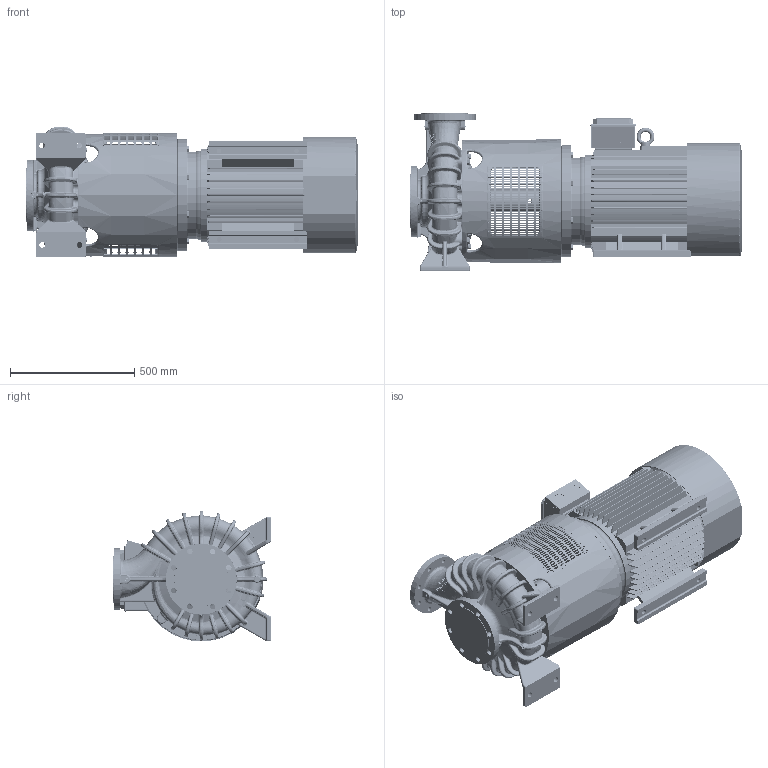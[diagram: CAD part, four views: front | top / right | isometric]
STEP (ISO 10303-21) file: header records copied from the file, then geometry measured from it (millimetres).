
FILE_DESCRIPTION((''),'2;1');
FILE_NAME('NSLH125-330_A02_MOTOR_225_ASM','2019-09-30T',('BRHE'),(''),'PRO/ENGINEER BY PARAMETRIC TECHNOLOGY CORPORATION, 2017170','PRO/ENGINEER BY PARAMETRIC TECHNOLOGY CORPORATION, 2017170','');
FILE_SCHEMA(('CONFIG_CONTROL_DESIGN'));
Products named in the file (38): 523740; 523960; 506710; 110165; 110167; 705274; 700949; 704267; 110172; 704022; 707211; 704247; 513871; 506702; 704032; 706279; 704186; 506961; 705511; 704390; 704371; 704067; 705750; 708178; 704279; 513770; 704047; 704048; 110557_AF0; 656577_ASM; 656576_ASM; 110535; 110177; 704016; 703207; 673251_ASM; 844502; NSLH125-330_A02_MOTOR_225_ASM
Assembly tree (87 placements, depth 4):
  NSLH125-330_A02_MOTOR_225_ASM
    656576_ASM
      656577_ASM
        523740
        523960
        506710  x2
        110165
        110167
        705274
        700949
        704267
        110172
        704022
        707211
        704247
        513871
        506702
        704032
        706279
        704186
        506961
        705511
        704390  x5
        704371  x4
        704067  x12
        705750  x12
        708178  x2
        704279  x4
        513770
        704047
        704048
        110557_AF0  x2
    673251_ASM
      110535
      110177
      704016  x8
      704279  x8
      703207
    844502
Bounding box: 1336.3 x 635 x 525.79 mm (x, y, z)
Volume: 112866438.1 mm3; surface area: 8694854.7 mm2
Topology: 93 solids, 154 shells, 7765 faces, 20272 edges, 12839 vertices
Faces by surface type: plane 2545, bspline 2223, cylinder 1599, cone 622, extrusion 372, torus 317, sphere 87
Entity records: 453886 total; most frequent: CARTESIAN_POINT 313768, ORIENTED_EDGE 31560, DIRECTION 24351, EDGE_CURVE 15914, VERTEX_POINT 10079, AXIS2_PLACEMENT_3D 8792, EDGE_LOOP 7089, VECTOR 6767
